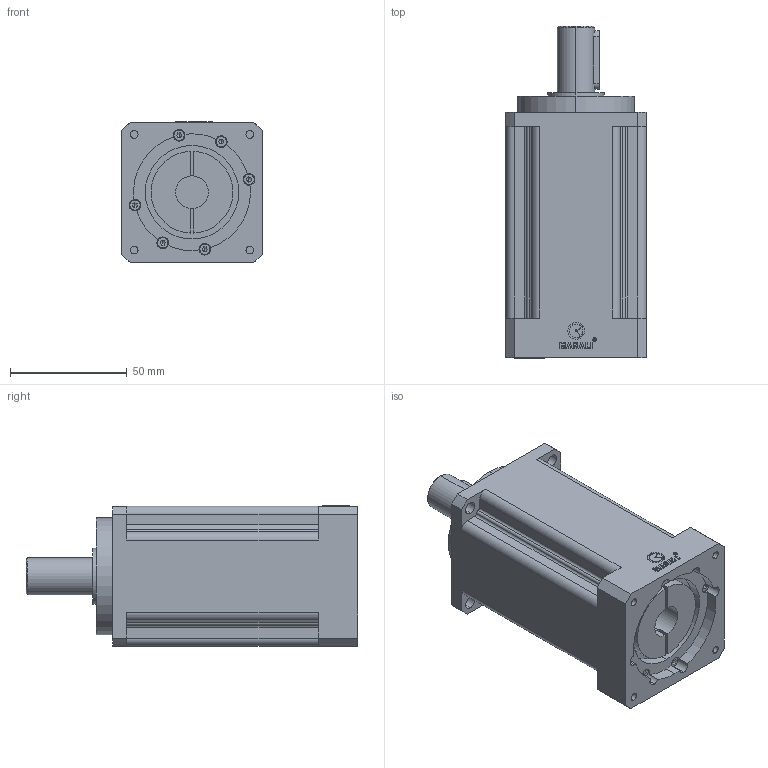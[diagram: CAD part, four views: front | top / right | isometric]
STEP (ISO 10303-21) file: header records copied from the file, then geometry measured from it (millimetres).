
FILE_DESCRIPTION (( 'STEP AP214' ), '1' );
FILE_NAME ('MAB-060-L2.step', '2020-06-27T09:03:02', ( '' ), ( '' ), 'SwSTEP 2.0', 'SolidWorks 2016', '' );
FILE_SCHEMA (( 'AUTOMOTIVE_DESIGN' ));
Length unit declared in the file: millimetre
Products named in the file (1): MAB-060-L2
Bounding box: 60.01 x 142 x 60.2 mm (x, y, z)
Volume: 339765.6 mm3; surface area: 39899.4 mm2
Topology: 1 solids, 1 shells, 469 faces, 1250 edges, 815 vertices
Faces by surface type: plane 263, cylinder 113, bspline 63, cone 30
Entity records: 20122 total; most frequent: CARTESIAN_POINT 3591, ORIENTED_EDGE 2472, DIRECTION 2121, EDGE_CURVE 1236, VECTOR 819, LINE 819, VERTEX_POINT 815, AXIS2_PLACEMENT_3D 651
